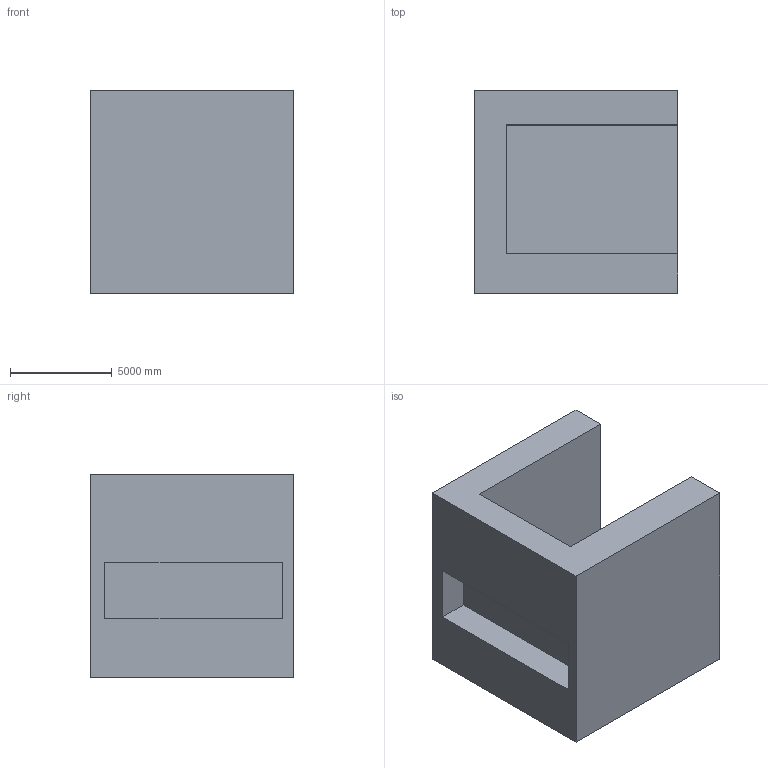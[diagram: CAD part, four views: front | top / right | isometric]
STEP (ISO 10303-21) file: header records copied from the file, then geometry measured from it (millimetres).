
FILE_DESCRIPTION (( 'STEP AP203' ), '1' );
FILE_NAME ('9.STEP', '2022-08-30T14:00:35', ( 'user' ), ( '' ), 'SwSTEP 2.0', 'SolidWorks 2021', '' );
FILE_SCHEMA (( 'CONFIG_CONTROL_DESIGN' ));
Length unit declared in the file: centimetre
Products named in the file (1): 9
Bounding box: 10000 x 10000 x 10000 mm (x, y, z)
Volume: 549092668504 mm3; surface area: 764810011.3 mm2
Topology: 1 solids, 1 shells, 15 faces, 36 edges, 24 vertices
Faces by surface type: plane 15
Entity records: 507 total; most frequent: CARTESIAN_POINT 76, ORIENTED_EDGE 72, DIRECTION 68, EDGE_CURVE 36, VECTOR 36, LINE 36, VERTEX_POINT 24, EDGE_LOOP 16
